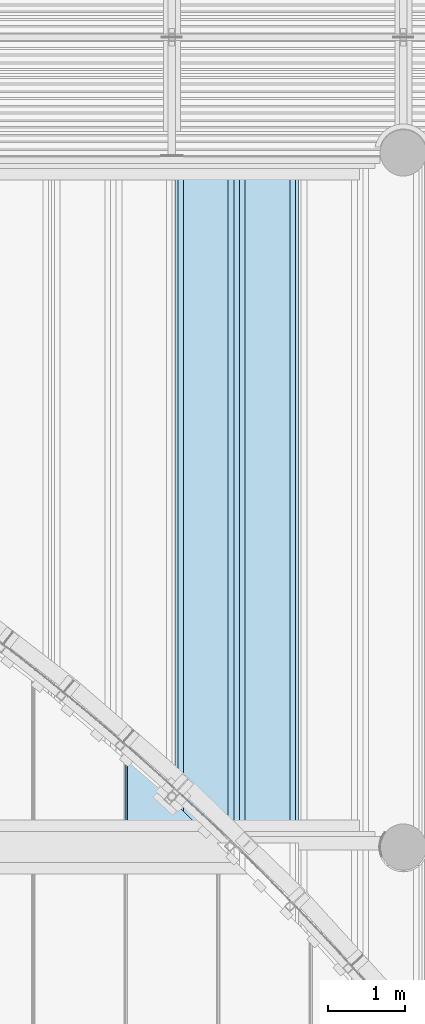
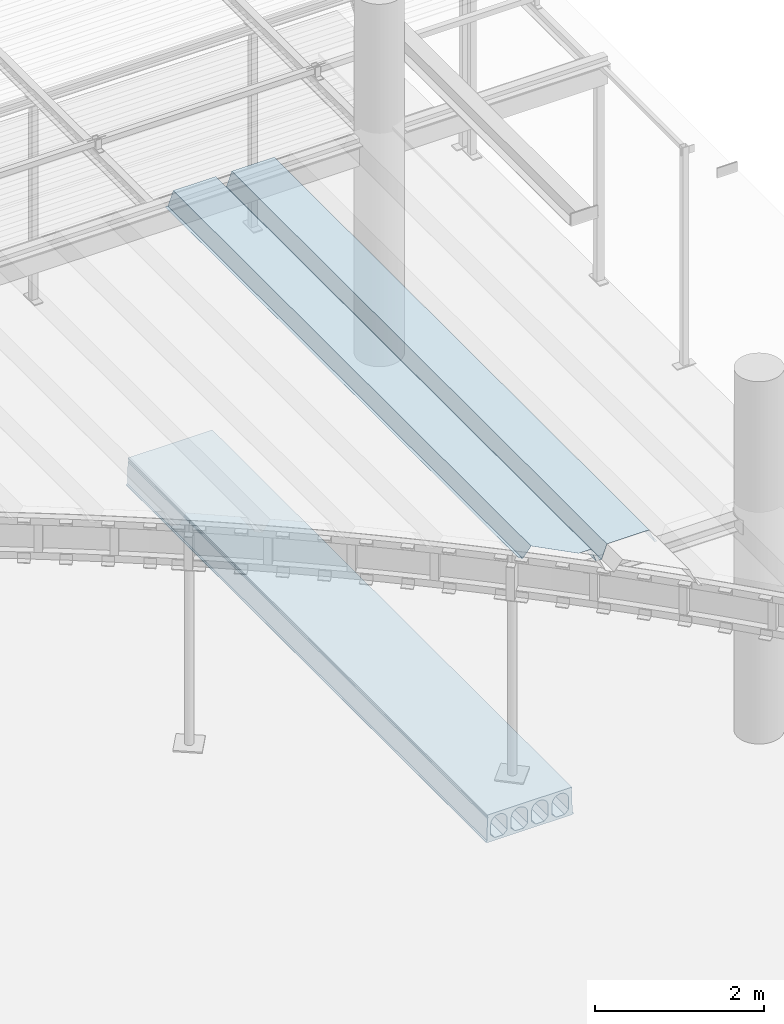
# One storey, part 65 of 98: 2 slabs.
"""IFC2X3 building model written with IfcOpenShell, lengths in millimetres."""

from ifc_helpers import new_model, entity, si_unit, converted_unit, derived_unit, direction, frame, origin_with_axes, place, context, subcontext, project, spatial, faceted_brep, material, type_object, element, save


model = new_model("IFC2X3")

# Units and contexts
model_context = context("Model", 3, precision=0.01, world=frame((0.0, 4.29681676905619e-09, 0.0)), true_north=direction((4.01073788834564e-13, 1.0)))
plan_context = context("Plan", 3, precision=0.01, world=frame((0.0, 4.29681676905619e-09, 0.0)), true_north=direction((4.01073788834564e-13, 1.0)))
body_context = subcontext(model_context, "Body", "Model", "MODEL_VIEW")
ifc_project = project(units=[converted_unit("PLANEANGLEUNIT", "DEGREE", entity("IfcPositiveLengthMeasure", 0.0174532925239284), si_unit("PLANEANGLEUNIT", "RADIAN"), dimensions=[0, 0, 0, 0, 0, 0, 0]), si_unit("AREAUNIT", "SQUARE_METRE"), si_unit("LENGTHUNIT", "METRE", prefix="MILLI"), si_unit("MASSUNIT", "GRAM", prefix="KILO"), si_unit("POWERUNIT", "WATT"), si_unit("PRESSUREUNIT", "PASCAL"), si_unit("FORCEUNIT", "NEWTON", prefix="KILO"), si_unit("ELECTRICCURRENTUNIT", "AMPERE"), si_unit("THERMODYNAMICTEMPERATUREUNIT", "DEGREE_CELSIUS"), si_unit("TIMEUNIT", "SECOND"), si_unit("VOLUMEUNIT", "CUBIC_METRE"), derived_unit("LINEARVELOCITYUNIT", [(si_unit("LENGTHUNIT", "METRE"), 1), (si_unit("TIMEUNIT", "SECOND"), -1)]), derived_unit("VOLUMETRICFLOWRATEUNIT", [(si_unit("VOLUMEUNIT", "CUBIC_METRE"), 1), (si_unit("TIMEUNIT", "SECOND"), -1)]), derived_unit("THERMALTRANSMITTANCEUNIT", [(si_unit("POWERUNIT", "WATT"), 1), (si_unit("THERMODYNAMICTEMPERATUREUNIT", "KELVIN"), -1), (si_unit("AREAUNIT", "SQUARE_METRE"), -1)])], contexts=[model_context, plan_context])

# Site, building, storey
site_placement = place(None, frame((0.0, -4.29681676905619e-09, 0.0), z_axis=(0.0, 0.0, 1.0), x_axis=(1.0, 0.0, 0.0)))
site = spatial("IfcSite", under=ifc_project, at=site_placement, Name="Gardermoen", CompositionType="ELEMENT")
building_placement = place(site_placement, frame((0.0, 4.29681676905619e-09, 0.0), z_axis=(0.0, 0.0, 1.0), x_axis=(1.0, 0.0, 0.0)))
building = spatial("IfcBuilding", under=site, at=building_placement, Name="TS", CompositionType="ELEMENT")
storey_placement = place(building_placement, origin_with_axes())
storey = spatial("IfcBuildingStorey", under=building, at=storey_placement, Name="D", CompositionType="ELEMENT", Elevation=0.0)

# Slabs
ifc_material_1 = material(Name="CONCRETE/C45/55")
slab_type_1 = type_object("IfcSlabType", Name="HD400", PredefinedType="NOTDEFINED")
slab_1_placement = place(storey_placement, frame((525999.999766, 405739.995625, 203600.0), z_axis=(0.0, 0.0, 1.0), x_axis=(0.0, 1.0, 0.0)))
element("IfcSlab", 1, at=slab_1_placement, inside=storey, type_object=slab_type_1, material=ifc_material_1, Name="HULLDEKKE", ObjectType="HD400", PredefinedType="FLOOR", context=body_context, shape_type="Brep", body=[
    faceted_brep([(0.0, 600.0, -190.0), (0.0, 600.0, -180.0), (8520.00875000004, 600.0, -180.0), (8520.00875000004, 600.0, -190.0), (0.0, 585.0, -170.0), (8520.00875000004, 585.0, -170.0), (0.0, 577.5, 145.0), (8520.00875000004, 577.5, 145.0), (0.0, 570.0, 160.0), (8520.00875000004, 570.0, 160.0), (0.0, 577.5, 175.0), (8520.00875000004, 577.5, 175.0), (0.0, 577.5, 200.0), (8520.00875000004, 577.5, 200.0), (0.0, -577.5, 200.0), (8520.00875000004, -577.5, 200.0), (0.0, -577.5, 175.0), (8520.00875000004, -577.5, 175.0), (0.0, -570.0, 160.0), (8520.00875000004, -570.0, 160.0), (0.0, -577.5, 145.0), (8520.00875000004, -577.5, 145.0), (0.0, -585.0, -170.0), (8520.00875000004, -585.0, -170.0), (0.0, -600.0, -180.0), (8520.00875000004, -600.0, -180.0), (0.0, -600.0, -190.0), (8520.00875000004, -600.0, -190.0), (0.0, -583.380004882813, -200.0), (8520.00875000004, -583.380004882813, -200.0), (0.0, 583.380004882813, -200.0), (8520.00875000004, 583.380004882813, -200.0), (0.0, -362.5, -160.0), (0.0, -477.5, -160.0), (8520.00875000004, -477.5, -160.0), (8520.00875000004, -362.5, -160.0), (0.0, -532.5, -105.0), (8520.00875000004, -532.5, -105.0), (0.0, -532.5, 47.5), (8520.00875000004, -532.5, 47.5), (0.0, -532.115755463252, 56.7901763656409), (8520.00875000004, -532.115755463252, 56.7901763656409), (0.0, -530.965646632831, 66.0168914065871), (8520.00875000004, -530.965646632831, 66.0168914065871), (0.0, -529.057529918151, 75.1171173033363), (8520.00875000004, -529.057529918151, 75.1171173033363), (0.0, -526.404439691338, 84.028690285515), (8520.00875000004, -526.404439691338, 84.028690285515), (0.0, -523.024499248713, 92.6907352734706), (8520.00875000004, -523.024499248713, 92.6907352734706), (0.0, -518.940797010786, 101.044081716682), (8520.00875000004, -518.940797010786, 101.044081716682), (0.0, -514.181228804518, 109.031667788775), (8520.00875000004, -514.181228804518, 109.031667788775), (0.0, -508.778307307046, 116.598930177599), (8520.00875000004, -508.778307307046, 116.598930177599), (0.0, -502.768939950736, 123.694176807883), (8520.00875000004, -502.768939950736, 123.694176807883), (0.0, -496.194176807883, 130.268939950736), (8520.00875000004, -496.194176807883, 130.268939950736), (0.0, -489.098930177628, 136.278307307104), (8520.00875000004, -489.098930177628, 136.278307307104), (0.0, -481.531667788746, 141.681228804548), (8520.00875000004, -481.531667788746, 141.681228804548), (0.0, -473.544081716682, 146.440797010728), (8520.00875000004, -473.544081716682, 146.440797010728), (0.0, -465.190735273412, 150.524499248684), (8520.00875000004, -465.190735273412, 150.524499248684), (0.0, -456.528690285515, 153.904439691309), (8520.00875000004, -456.528690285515, 153.904439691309), (0.0, -447.617117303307, 156.55752991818), (8520.00875000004, -447.617117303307, 156.55752991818), (0.0, -438.516891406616, 158.465646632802), (8520.00875000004, -438.516891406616, 158.465646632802), (0.0, -429.290176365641, 159.615755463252), (8520.00875000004, -429.290176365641, 159.615755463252), (0.0, -420.0, 160.0), (8520.00875000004, -420.0, 160.0), (0.0, -410.709823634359, 159.615755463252), (8520.00875000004, -410.709823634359, 159.615755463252), (0.0, -401.483108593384, 158.465646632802), (8520.00875000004, -401.483108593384, 158.465646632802), (0.0, -392.382882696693, 156.55752991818), (8520.00875000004, -392.382882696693, 156.55752991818), (0.0, -383.471309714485, 153.904439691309), (8520.00875000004, -383.471309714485, 153.904439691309), (0.0, -374.809264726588, 150.524499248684), (8520.00875000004, -374.809264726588, 150.524499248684), (0.0, -366.455918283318, 146.440797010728), (8520.00875000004, -366.455918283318, 146.440797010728), (0.0, -358.468332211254, 141.681228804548), (8520.00875000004, -358.468332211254, 141.681228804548), (0.0, -350.901069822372, 136.278307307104), (8520.00875000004, -350.901069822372, 136.278307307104), (0.0, -343.805823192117, 130.268939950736), (8520.00875000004, -343.805823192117, 130.268939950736), (0.0, -337.231060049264, 123.694176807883), (8520.00875000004, -337.231060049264, 123.694176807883), (0.0, -331.221692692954, 116.598930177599), (8520.00875000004, -331.221692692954, 116.598930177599), (0.0, -325.818771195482, 109.031667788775), (8520.00875000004, -325.818771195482, 109.031667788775), (0.0, -321.059202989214, 101.044081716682), (8520.00875000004, -321.059202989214, 101.044081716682), (0.0, -316.975500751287, 92.6907352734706), (8520.00875000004, -316.975500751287, 92.6907352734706), (0.0, -313.595560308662, 84.028690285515), (8520.00875000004, -313.595560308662, 84.028690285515), (0.0, -310.942470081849, 75.1171173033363), (8520.00875000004, -310.942470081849, 75.1171173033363), (0.0, -309.034353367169, 66.0168914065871), (8520.00875000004, -309.034353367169, 66.0168914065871), (0.0, -307.884244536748, 56.7901763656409), (8520.00875000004, -307.884244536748, 56.7901763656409), (0.0, -307.5, 47.5), (8520.00875000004, -307.5, 47.5), (0.0, -307.5, -105.0), (8520.00875000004, -307.5, -105.0), (0.0, -82.5, -160.0), (0.0, -197.5, -160.0), (8520.00875000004, -197.5, -160.0), (8520.00875000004, -82.5, -160.0), (0.0, -252.5, -105.0), (8520.00875000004, -252.5, -105.0), (0.0, -252.5, 47.5), (8520.00875000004, -252.5, 47.5), (0.0, -252.115755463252, 56.7901763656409), (8520.00875000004, -252.115755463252, 56.7901763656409), (0.0, -250.965646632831, 66.0168914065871), (8520.00875000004, -250.965646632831, 66.0168914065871), (0.0, -249.057529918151, 75.1171173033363), (8520.00875000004, -249.057529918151, 75.1171173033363), (0.0, -246.404439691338, 84.028690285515), (8520.00875000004, -246.404439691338, 84.028690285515), (0.0, -243.024499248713, 92.6907352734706), (8520.00875000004, -243.024499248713, 92.6907352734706), (0.0, -238.940797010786, 101.044081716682), (8520.00875000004, -238.940797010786, 101.044081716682), (0.0, -234.181228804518, 109.031667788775), (8520.00875000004, -234.181228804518, 109.031667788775), (0.0, -228.778307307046, 116.598930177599), (8520.00875000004, -228.778307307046, 116.598930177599), (0.0, -222.768939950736, 123.694176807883), (8520.00875000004, -222.768939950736, 123.694176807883), (0.0, -216.194176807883, 130.268939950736), (8520.00875000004, -216.194176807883, 130.268939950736), (0.0, -209.098930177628, 136.278307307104), (8520.00875000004, -209.098930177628, 136.278307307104), (0.0, -201.531667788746, 141.681228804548), (8520.00875000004, -201.531667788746, 141.681228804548), (0.0, -193.544081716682, 146.440797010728), (8520.00875000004, -193.544081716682, 146.440797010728), (0.0, -185.190735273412, 150.524499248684), (8520.00875000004, -185.190735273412, 150.524499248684), (0.0, -176.528690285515, 153.904439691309), (8520.00875000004, -176.528690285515, 153.904439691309), (0.0, -167.617117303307, 156.55752991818), (8520.00875000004, -167.617117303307, 156.55752991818), (0.0, -158.516891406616, 158.465646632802), (8520.00875000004, -158.516891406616, 158.465646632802), (0.0, -149.290176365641, 159.615755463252), (8520.00875000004, -149.290176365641, 159.615755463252), (0.0, -140.0, 160.0), (8520.00875000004, -140.0, 160.0), (0.0, -130.709823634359, 159.615755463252), (8520.00875000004, -130.709823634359, 159.615755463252), (0.0, -121.483108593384, 158.465646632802), (8520.00875000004, -121.483108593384, 158.465646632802), (0.0, -112.382882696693, 156.55752991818), (8520.00875000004, -112.382882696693, 156.55752991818), (0.0, -103.471309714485, 153.904439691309), (8520.00875000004, -103.471309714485, 153.904439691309), (0.0, -94.8092647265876, 150.524499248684), (8520.00875000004, -94.8092647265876, 150.524499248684), (0.0, -86.4559182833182, 146.440797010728), (8520.00875000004, -86.4559182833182, 146.440797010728), (0.0, -78.4683322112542, 141.681228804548), (8520.00875000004, -78.4683322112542, 141.681228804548), (0.0, -70.9010698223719, 136.278307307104), (8520.00875000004, -70.9010698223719, 136.278307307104), (0.0, -63.8058231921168, 130.268939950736), (8520.00875000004, -63.8058231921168, 130.268939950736), (0.0, -57.2310600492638, 123.694176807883), (8520.00875000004, -57.2310600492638, 123.694176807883), (0.0, -51.2216926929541, 116.598930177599), (8520.00875000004, -51.2216926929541, 116.598930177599), (0.0, -45.8187711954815, 109.031667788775), (8520.00875000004, -45.8187711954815, 109.031667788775), (0.0, -41.0592029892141, 101.044081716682), (8520.00875000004, -41.0592029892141, 101.044081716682), (0.0, -36.9755007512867, 92.6907352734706), (8520.00875000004, -36.9755007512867, 92.6907352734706), (0.0, -33.5955603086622, 84.028690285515), (8520.00875000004, -33.5955603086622, 84.028690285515), (0.0, -30.942470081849, 75.1171173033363), (8520.00875000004, -30.942470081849, 75.1171173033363), (0.0, -29.0343533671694, 66.0168914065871), (8520.00875000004, -29.0343533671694, 66.0168914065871), (0.0, -27.8842445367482, 56.7901763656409), (8520.00875000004, -27.8842445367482, 56.7901763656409), (0.0, -27.5, 47.5), (8520.00875000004, -27.5, 47.5), (0.0, -27.5, -105.0), (8520.00875000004, -27.5, -105.0), (0.0, 197.5, -160.0), (0.0, 82.5, -160.0), (8520.00875000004, 82.5, -160.0), (8520.00875000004, 197.5, -160.0), (0.0, 27.5, -105.0), (8520.00875000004, 27.5, -105.0), (0.0, 27.5, 47.5), (8520.00875000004, 27.5, 47.5), (0.0, 27.8842445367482, 56.7901763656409), (8520.00875000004, 27.8842445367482, 56.7901763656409), (0.0, 29.0343533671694, 66.0168914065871), (8520.00875000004, 29.0343533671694, 66.0168914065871), (0.0, 30.942470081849, 75.1171173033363), (8520.00875000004, 30.942470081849, 75.1171173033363), (0.0, 33.5955603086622, 84.028690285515), (8520.00875000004, 33.5955603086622, 84.028690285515), (0.0, 36.9755007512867, 92.6907352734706), (8520.00875000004, 36.9755007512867, 92.6907352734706), (0.0, 41.0592029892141, 101.044081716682), (8520.00875000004, 41.0592029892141, 101.044081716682), (0.0, 45.8187711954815, 109.031667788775), (8520.00875000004, 45.8187711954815, 109.031667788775), (0.0, 51.2216926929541, 116.598930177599), (8520.00875000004, 51.2216926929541, 116.598930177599), (0.0, 57.2310600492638, 123.694176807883), (8520.00875000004, 57.2310600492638, 123.694176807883), (0.0, 63.8058231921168, 130.268939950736), (8520.00875000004, 63.8058231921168, 130.268939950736), (0.0, 70.9010698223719, 136.278307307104), (8520.00875000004, 70.9010698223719, 136.278307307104), (0.0, 78.4683322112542, 141.681228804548), (8520.00875000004, 78.4683322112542, 141.681228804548), (0.0, 86.4559182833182, 146.440797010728), (8520.00875000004, 86.4559182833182, 146.440797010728), (0.0, 94.8092647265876, 150.524499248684), (8520.00875000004, 94.8092647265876, 150.524499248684), (0.0, 103.471309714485, 153.904439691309), (8520.00875000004, 103.471309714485, 153.904439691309), (0.0, 112.382882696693, 156.55752991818), (8520.00875000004, 112.382882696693, 156.55752991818), (0.0, 121.483108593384, 158.465646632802), (8520.00875000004, 121.483108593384, 158.465646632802), (0.0, 130.709823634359, 159.615755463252), (8520.00875000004, 130.709823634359, 159.615755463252), (0.0, 140.0, 160.0), (8520.00875000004, 140.0, 160.0), (0.0, 149.290176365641, 159.615755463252), (8520.00875000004, 149.290176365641, 159.615755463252), (0.0, 158.516891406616, 158.465646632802), (8520.00875000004, 158.516891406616, 158.465646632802), (0.0, 167.617117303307, 156.55752991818), (8520.00875000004, 167.617117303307, 156.55752991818), (0.0, 176.528690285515, 153.904439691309), (8520.00875000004, 176.528690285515, 153.904439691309), (0.0, 185.190735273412, 150.524499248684), (8520.00875000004, 185.190735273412, 150.524499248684), (0.0, 193.544081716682, 146.440797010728), (8520.00875000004, 193.544081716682, 146.440797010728), (0.0, 201.531667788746, 141.681228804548), (8520.00875000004, 201.531667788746, 141.681228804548), (0.0, 209.098930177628, 136.278307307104), (8520.00875000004, 209.098930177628, 136.278307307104), (0.0, 216.194176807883, 130.268939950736), (8520.00875000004, 216.194176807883, 130.268939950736), (0.0, 222.768939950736, 123.694176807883), (8520.00875000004, 222.768939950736, 123.694176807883), (0.0, 228.778307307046, 116.598930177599), (8520.00875000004, 228.778307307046, 116.598930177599), (0.0, 234.181228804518, 109.031667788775), (8520.00875000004, 234.181228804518, 109.031667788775), (0.0, 238.940797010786, 101.044081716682), (8520.00875000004, 238.940797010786, 101.044081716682), (0.0, 243.024499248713, 92.6907352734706), (8520.00875000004, 243.024499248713, 92.6907352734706), (0.0, 246.404439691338, 84.028690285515), (8520.00875000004, 246.404439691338, 84.028690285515), (0.0, 249.057529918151, 75.1171173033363), (8520.00875000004, 249.057529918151, 75.1171173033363), (0.0, 250.965646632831, 66.0168914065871), (8520.00875000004, 250.965646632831, 66.0168914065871), (0.0, 252.115755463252, 56.7901763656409), (8520.00875000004, 252.115755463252, 56.7901763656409), (0.0, 252.5, 47.5), (8520.00875000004, 252.5, 47.5), (0.0, 252.5, -105.0), (8520.00875000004, 252.5, -105.0), (0.0, 477.5, -160.0), (0.0, 362.5, -160.0), (8520.00875000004, 362.5, -160.0), (8520.00875000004, 477.5, -160.0), (0.0, 307.5, -105.0), (8520.00875000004, 307.5, -105.0), (0.0, 307.5, 47.5), (8520.00875000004, 307.5, 47.5), (0.0, 307.884244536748, 56.7901763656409), (8520.00875000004, 307.884244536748, 56.7901763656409), (0.0, 309.034353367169, 66.0168914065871), (8520.00875000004, 309.034353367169, 66.0168914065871), (0.0, 310.942470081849, 75.1171173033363), (8520.00875000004, 310.942470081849, 75.1171173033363), (0.0, 313.595560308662, 84.028690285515), (8520.00875000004, 313.595560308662, 84.028690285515), (0.0, 316.975500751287, 92.6907352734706), (8520.00875000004, 316.975500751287, 92.6907352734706), (0.0, 321.059202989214, 101.044081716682), (8520.00875000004, 321.059202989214, 101.044081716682), (0.0, 325.818771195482, 109.031667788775), (8520.00875000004, 325.818771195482, 109.031667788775), (0.0, 331.221692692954, 116.598930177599), (8520.00875000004, 331.221692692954, 116.598930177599), (0.0, 337.231060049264, 123.694176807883), (8520.00875000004, 337.231060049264, 123.694176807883), (0.0, 343.805823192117, 130.268939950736), (8520.00875000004, 343.805823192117, 130.268939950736), (0.0, 350.901069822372, 136.278307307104), (8520.00875000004, 350.901069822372, 136.278307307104), (0.0, 358.468332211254, 141.681228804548), (8520.00875000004, 358.468332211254, 141.681228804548), (0.0, 366.455918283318, 146.440797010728), (8520.00875000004, 366.455918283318, 146.440797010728), (0.0, 374.809264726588, 150.524499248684), (8520.00875000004, 374.809264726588, 150.524499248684), (0.0, 383.471309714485, 153.904439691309), (8520.00875000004, 383.471309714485, 153.904439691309), (0.0, 392.382882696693, 156.55752991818), (8520.00875000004, 392.382882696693, 156.55752991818), (0.0, 401.483108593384, 158.465646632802), (8520.00875000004, 401.483108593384, 158.465646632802), (0.0, 410.709823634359, 159.615755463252), (8520.00875000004, 410.709823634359, 159.615755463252), (0.0, 420.0, 160.0), (8520.00875000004, 420.0, 160.0), (0.0, 429.290176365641, 159.615755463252), (8520.00875000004, 429.290176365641, 159.615755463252), (0.0, 438.516891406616, 158.465646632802), (8520.00875000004, 438.516891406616, 158.465646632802), (0.0, 447.617117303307, 156.55752991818), (8520.00875000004, 447.617117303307, 156.55752991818), (0.0, 456.528690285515, 153.904439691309), (8520.00875000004, 456.528690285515, 153.904439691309), (0.0, 465.190735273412, 150.524499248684), (8520.00875000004, 465.190735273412, 150.524499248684), (0.0, 473.544081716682, 146.440797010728), (8520.00875000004, 473.544081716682, 146.440797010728), (0.0, 481.531667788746, 141.681228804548), (8520.00875000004, 481.531667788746, 141.681228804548), (0.0, 489.098930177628, 136.278307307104), (8520.00875000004, 489.098930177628, 136.278307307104), (0.0, 496.194176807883, 130.268939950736), (8520.00875000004, 496.194176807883, 130.268939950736), (0.0, 502.768939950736, 123.694176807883), (8520.00875000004, 502.768939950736, 123.694176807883), (0.0, 508.778307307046, 116.598930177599), (8520.00875000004, 508.778307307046, 116.598930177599), (0.0, 514.181228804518, 109.031667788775), (8520.00875000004, 514.181228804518, 109.031667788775), (0.0, 518.940797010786, 101.044081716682), (8520.00875000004, 518.940797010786, 101.044081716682), (0.0, 523.024499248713, 92.6907352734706), (8520.00875000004, 523.024499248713, 92.6907352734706), (0.0, 526.404439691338, 84.028690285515), (8520.00875000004, 526.404439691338, 84.028690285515), (0.0, 529.057529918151, 75.1171173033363), (8520.00875000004, 529.057529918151, 75.1171173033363), (0.0, 530.965646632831, 66.0168914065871), (8520.00875000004, 530.965646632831, 66.0168914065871), (0.0, 532.115755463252, 56.7901763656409), (8520.00875000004, 532.115755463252, 56.7901763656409), (0.0, 532.5, 47.5), (8520.00875000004, 532.5, 47.5), (0.0, 532.5, -105.0), (8520.00875000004, 532.5, -105.0)], [[[0, 1, 2, 3]], [[1, 4, 5, 2]], [[4, 6, 7, 5]], [[6, 8, 9, 7]], [[8, 10, 11, 9]], [[10, 12, 13, 11]], [[12, 14, 15, 13]], [[14, 16, 17, 15]], [[16, 18, 19, 17]], [[18, 20, 21, 19]], [[20, 22, 23, 21]], [[22, 24, 25, 23]], [[24, 26, 27, 25]], [[26, 28, 29, 27]], [[28, 30, 31, 29]], [[30, 0, 3, 31]], [[32, 33, 34, 35]], [[33, 36, 37, 34]], [[36, 38, 39, 37]], [[38, 40, 41, 39]], [[40, 42, 43, 41]], [[42, 44, 45, 43]], [[44, 46, 47, 45]], [[46, 48, 49, 47]], [[48, 50, 51, 49]], [[50, 52, 53, 51]], [[52, 54, 55, 53]], [[54, 56, 57, 55]], [[56, 58, 59, 57]], [[58, 60, 61, 59]], [[60, 62, 63, 61]], [[62, 64, 65, 63]], [[64, 66, 67, 65]], [[66, 68, 69, 67]], [[68, 70, 71, 69]], [[70, 72, 73, 71]], [[72, 74, 75, 73]], [[74, 76, 77, 75]], [[76, 78, 79, 77]], [[78, 80, 81, 79]], [[80, 82, 83, 81]], [[82, 84, 85, 83]], [[84, 86, 87, 85]], [[86, 88, 89, 87]], [[88, 90, 91, 89]], [[90, 92, 93, 91]], [[92, 94, 95, 93]], [[94, 96, 97, 95]], [[96, 98, 99, 97]], [[98, 100, 101, 99]], [[100, 102, 103, 101]], [[102, 104, 105, 103]], [[104, 106, 107, 105]], [[106, 108, 109, 107]], [[108, 110, 111, 109]], [[110, 112, 113, 111]], [[112, 114, 115, 113]], [[114, 116, 117, 115]], [[116, 32, 35, 117]], [[118, 119, 120, 121]], [[119, 122, 123, 120]], [[122, 124, 125, 123]], [[124, 126, 127, 125]], [[126, 128, 129, 127]], [[128, 130, 131, 129]], [[130, 132, 133, 131]], [[132, 134, 135, 133]], [[134, 136, 137, 135]], [[136, 138, 139, 137]], [[138, 140, 141, 139]], [[140, 142, 143, 141]], [[142, 144, 145, 143]], [[144, 146, 147, 145]], [[146, 148, 149, 147]], [[148, 150, 151, 149]], [[150, 152, 153, 151]], [[152, 154, 155, 153]], [[154, 156, 157, 155]], [[156, 158, 159, 157]], [[158, 160, 161, 159]], [[160, 162, 163, 161]], [[162, 164, 165, 163]], [[164, 166, 167, 165]], [[166, 168, 169, 167]], [[168, 170, 171, 169]], [[170, 172, 173, 171]], [[172, 174, 175, 173]], [[174, 176, 177, 175]], [[176, 178, 179, 177]], [[178, 180, 181, 179]], [[180, 182, 183, 181]], [[182, 184, 185, 183]], [[184, 186, 187, 185]], [[186, 188, 189, 187]], [[188, 190, 191, 189]], [[190, 192, 193, 191]], [[192, 194, 195, 193]], [[194, 196, 197, 195]], [[196, 198, 199, 197]], [[198, 200, 201, 199]], [[200, 202, 203, 201]], [[202, 118, 121, 203]], [[204, 205, 206, 207]], [[205, 208, 209, 206]], [[208, 210, 211, 209]], [[210, 212, 213, 211]], [[212, 214, 215, 213]], [[214, 216, 217, 215]], [[216, 218, 219, 217]], [[218, 220, 221, 219]], [[220, 222, 223, 221]], [[222, 224, 225, 223]], [[224, 226, 227, 225]], [[226, 228, 229, 227]], [[228, 230, 231, 229]], [[230, 232, 233, 231]], [[232, 234, 235, 233]], [[234, 236, 237, 235]], [[236, 238, 239, 237]], [[238, 240, 241, 239]], [[240, 242, 243, 241]], [[242, 244, 245, 243]], [[244, 246, 247, 245]], [[246, 248, 249, 247]], [[248, 250, 251, 249]], [[250, 252, 253, 251]], [[252, 254, 255, 253]], [[254, 256, 257, 255]], [[256, 258, 259, 257]], [[258, 260, 261, 259]], [[260, 262, 263, 261]], [[262, 264, 265, 263]], [[264, 266, 267, 265]], [[266, 268, 269, 267]], [[268, 270, 271, 269]], [[270, 272, 273, 271]], [[272, 274, 275, 273]], [[274, 276, 277, 275]], [[276, 278, 279, 277]], [[278, 280, 281, 279]], [[280, 282, 283, 281]], [[282, 284, 285, 283]], [[284, 286, 287, 285]], [[286, 288, 289, 287]], [[288, 204, 207, 289]], [[290, 291, 292, 293]], [[291, 294, 295, 292]], [[294, 296, 297, 295]], [[296, 298, 299, 297]], [[298, 300, 301, 299]], [[300, 302, 303, 301]], [[302, 304, 305, 303]], [[304, 306, 307, 305]], [[306, 308, 309, 307]], [[308, 310, 311, 309]], [[310, 312, 313, 311]], [[312, 314, 315, 313]], [[314, 316, 317, 315]], [[316, 318, 319, 317]], [[318, 320, 321, 319]], [[320, 322, 323, 321]], [[322, 324, 325, 323]], [[324, 326, 327, 325]], [[326, 328, 329, 327]], [[328, 330, 331, 329]], [[330, 332, 333, 331]], [[332, 334, 335, 333]], [[334, 336, 337, 335]], [[336, 338, 339, 337]], [[338, 340, 341, 339]], [[340, 342, 343, 341]], [[342, 344, 345, 343]], [[344, 346, 347, 345]], [[346, 348, 349, 347]], [[348, 350, 351, 349]], [[350, 352, 353, 351]], [[352, 354, 355, 353]], [[354, 356, 357, 355]], [[356, 358, 359, 357]], [[358, 360, 361, 359]], [[360, 362, 363, 361]], [[362, 364, 365, 363]], [[364, 366, 367, 365]], [[366, 368, 369, 367]], [[368, 370, 371, 369]], [[370, 372, 373, 371]], [[372, 374, 375, 373]], [[374, 290, 293, 375]], [[5, 7, 9, 11, 13, 15, 17, 19, 21, 23, 25, 27, 29, 31, 3, 2], [295, 297, 299, 301, 303, 305, 307, 309, 311, 313, 315, 317, 319, 321, 323, 325, 327, 329, 331, 333, 335, 337, 339, 341, 343, 345, 347, 349, 351, 353, 355, 357, 359, 361, 363, 365, 367, 369, 371, 373, 375, 293, 292], [209, 211, 213, 215, 217, 219, 221, 223, 225, 227, 229, 231, 233, 235, 237, 239, 241, 243, 245, 247, 249, 251, 253, 255, 257, 259, 261, 263, 265, 267, 269, 271, 273, 275, 277, 279, 281, 283, 285, 287, 289, 207, 206], [123, 125, 127, 129, 131, 133, 135, 137, 139, 141, 143, 145, 147, 149, 151, 153, 155, 157, 159, 161, 163, 165, 167, 169, 171, 173, 175, 177, 179, 181, 183, 185, 187, 189, 191, 193, 195, 197, 199, 201, 203, 121, 120], [37, 39, 41, 43, 45, 47, 49, 51, 53, 55, 57, 59, 61, 63, 65, 67, 69, 71, 73, 75, 77, 79, 81, 83, 85, 87, 89, 91, 93, 95, 97, 99, 101, 103, 105, 107, 109, 111, 113, 115, 117, 35, 34]], [[30, 28, 26, 24, 22, 20, 18, 16, 14, 12, 10, 8, 6, 4, 1, 0], [374, 372, 370, 368, 366, 364, 362, 360, 358, 356, 354, 352, 350, 348, 346, 344, 342, 340, 338, 336, 334, 332, 330, 328, 326, 324, 322, 320, 318, 316, 314, 312, 310, 308, 306, 304, 302, 300, 298, 296, 294, 291, 290], [288, 286, 284, 282, 280, 278, 276, 274, 272, 270, 268, 266, 264, 262, 260, 258, 256, 254, 252, 250, 248, 246, 244, 242, 240, 238, 236, 234, 232, 230, 228, 226, 224, 222, 220, 218, 216, 214, 212, 210, 208, 205, 204], [202, 200, 198, 196, 194, 192, 190, 188, 186, 184, 182, 180, 178, 176, 174, 172, 170, 168, 166, 164, 162, 160, 158, 156, 154, 152, 150, 148, 146, 144, 142, 140, 138, 136, 134, 132, 130, 128, 126, 124, 122, 119, 118], [116, 114, 112, 110, 108, 106, 104, 102, 100, 98, 96, 94, 92, 90, 88, 86, 84, 82, 80, 78, 76, 74, 72, 70, 68, 66, 64, 62, 60, 58, 56, 54, 52, 50, 48, 46, 44, 42, 40, 38, 36, 33, 32]]]),
])
ifc_material_2 = material(Name="STEEL/S355")
slab_type_2 = type_object("IfcSlabType", Name="PLANNJA200", PredefinedType="NOTDEFINED")
slab_2_placement = place(storey_placement, frame((526840.35, 405555.03, 207199.0), z_axis=(0.0, 0.0, 1.0), x_axis=(0.0, 1.0, 0.0)))
element("IfcSlab", 2, at=slab_2_placement, inside=storey, type_object=slab_type_2, material=ifc_material_2, Name="STÅLTAK", ObjectType="PLANNJA200", PredefinedType="FLOOR", context=body_context, shape_type="Brep", body=[
    faceted_brep([(0.0, 110.0, 99.5), (0.0, 36.8035354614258, -98.5), (8889.94999999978, 36.8035354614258, -98.5), (8889.94999999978, 110.0, 99.5), (0.0, -36.8035354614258, -98.5), (8889.94999999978, -36.8035354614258, -98.5), (0.0, -110.0, 99.5), (8889.94999999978, -110.0, 99.5), (0.0, -690.0, 99.5), (8889.94999999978, -690.0, 99.5), (0.0, -763.196472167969, -98.5), (8889.94999999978, -763.196472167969, -98.5), (0.0, -800.0, -98.5), (8889.94999999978, -800.0, -98.5), (0.0, -800.0, -99.5), (8889.94999999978, -800.0, -99.5), (0.0, -762.5, -99.5), (8889.94999999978, -762.5, -99.5), (0.0, -689.303527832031, 98.5), (8889.94999999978, -689.303527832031, 98.5), (0.0, -110.696464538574, 98.5), (8889.94999999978, -110.696464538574, 98.5), (0.0, -37.5, -99.5), (8889.94999999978, -37.5, -99.5), (0.0, 37.5, -99.5), (8889.94999999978, 37.5, -99.5), (0.0, 110.696464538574, 98.5), (8889.94999999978, 110.696464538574, 98.5), (8889.94999999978, 690.0, 99.5), (8889.94999999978, 689.303527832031, 98.5), (8889.94999999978, 762.5, -99.5), (8889.94999999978, 800.0, -99.5), (8889.94999999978, 800.0, -98.5), (8889.94999999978, 763.196472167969, -98.5), (520.614562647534, 800.0, -98.5), (483.811034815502, 763.196472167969, -98.5), (410.614562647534, 690.0, 99.5), (0.0, 279.385437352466, 99.5), (0.0, 279.385437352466, 98.5), (409.918090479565, 689.303527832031, 98.5), (483.114562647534, 762.5, -99.5), (520.614562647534, 800.0, -99.5)], [[[0, 1, 2, 3]], [[1, 4, 5, 2]], [[4, 6, 7, 5]], [[6, 8, 9, 7]], [[8, 10, 11, 9]], [[10, 12, 13, 11]], [[12, 14, 15, 13]], [[14, 16, 17, 15]], [[16, 18, 19, 17]], [[18, 20, 21, 19]], [[20, 22, 23, 21]], [[22, 24, 25, 23]], [[24, 26, 27, 25]], [[28, 3, 2, 5, 7, 9, 11, 13, 15, 17, 19, 21, 23, 25, 27, 29, 30, 31, 32, 33]], [[33, 32, 34, 35]], [[28, 33, 35, 36]], [[0, 3, 28, 36, 37]], [[26, 24, 22, 20, 18, 16, 14, 12, 10, 8, 6, 4, 1, 0, 37, 38]], [[29, 27, 26, 38, 39]], [[30, 29, 39, 40]], [[31, 30, 40, 41]], [[32, 31, 41, 34]], [[40, 39, 38, 37, 36, 35, 34, 41]]]),
])

save(model, "model.ifc")
